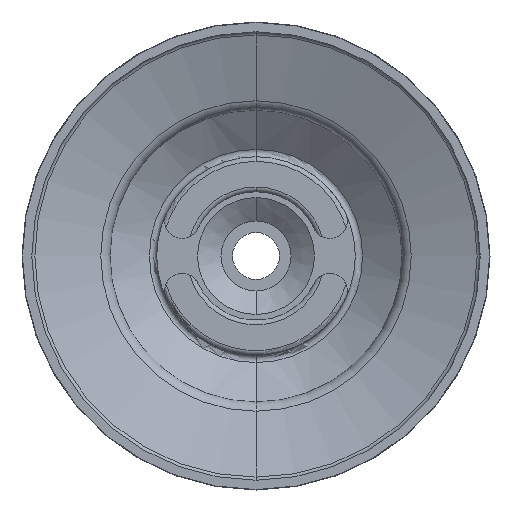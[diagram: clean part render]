
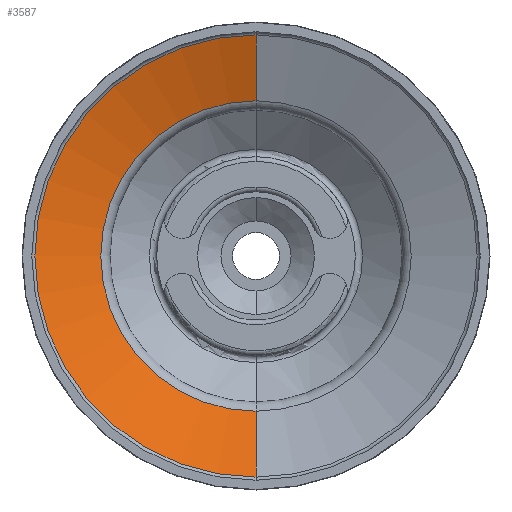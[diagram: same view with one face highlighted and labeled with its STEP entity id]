
A CAD part, front view. The second image highlights one B-rep face of the part: STEP entity #3587.
In plain terms, the highlighted conical face has half-angle 70 degrees and reference radius 13.29 mm.
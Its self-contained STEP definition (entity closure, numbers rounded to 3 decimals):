
#22 = CARTESIAN_POINT ( 'NONE',  ( 0., 2.572, -13.29 ) ) ;
#34 = EDGE_CURVE ( 'NONE', #1404, #2792, #167, .T. ) ;
#167 = LINE ( 'NONE', #1528, #896 ) ;
#273 = ORIENTED_EDGE ( 'NONE', *, *, #34, .T. ) ;
#314 = VERTEX_POINT ( 'NONE', #22 ) ;
#367 = CONICAL_SURFACE ( 'NONE', #3163, 13.29, 1.222 ) ;
#475 = VERTEX_POINT ( 'NONE', #2509 ) ;
#548 = EDGE_CURVE ( 'NONE', #314, #1404, #2271, .T. ) ;
#752 = DIRECTION ( 'NONE',  ( 0., -0.342, 0.94 ) ) ;
#852 = CARTESIAN_POINT ( 'NONE',  ( 0., 2.572, -13.29 ) ) ;
#896 = VECTOR ( 'NONE', #752, 1000. ) ;
#1404 = VERTEX_POINT ( 'NONE', #1500 ) ;
#1407 = LINE ( 'NONE', #852, #2601 ) ;
#1500 = CARTESIAN_POINT ( 'NONE',  ( 0., 2.572, 13.29 ) ) ;
#1528 = CARTESIAN_POINT ( 'NONE',  ( 0., 2.572, 13.29 ) ) ;
#1632 = DIRECTION ( 'NONE',  ( 0., 0., 1. ) ) ;
#1681 = CARTESIAN_POINT ( 'NONE',  ( 0., 0.517, 18.937 ) ) ;
#1706 = CARTESIAN_POINT ( 'NONE',  ( 0., 0.517, 0. ) ) ;
#1725 = DIRECTION ( 'NONE',  ( 0., 1., 0. ) ) ;
#1936 = AXIS2_PLACEMENT_3D ( 'NONE', #1706, #1725, #2336 ) ;
#2271 = CIRCLE ( 'NONE', #3670, 13.29 ) ;
#2336 = DIRECTION ( 'NONE',  ( 0., 0., 1. ) ) ;
#2509 = CARTESIAN_POINT ( 'NONE',  ( 0., 0.517, -18.937 ) ) ;
#2529 = CARTESIAN_POINT ( 'NONE',  ( 0., 2.572, 0. ) ) ;
#2553 = ORIENTED_EDGE ( 'NONE', *, *, #2814, .F. ) ;
#2601 = VECTOR ( 'NONE', #2850, 1000. ) ;
#2628 = ORIENTED_EDGE ( 'NONE', *, *, #548, .T. ) ;
#2787 = ORIENTED_EDGE ( 'NONE', *, *, #3185, .F. ) ;
#2792 = VERTEX_POINT ( 'NONE', #1681 ) ;
#2814 = EDGE_CURVE ( 'NONE', #314, #475, #1407, .T. ) ;
#2850 = DIRECTION ( 'NONE',  ( 0., -0.342, -0.94 ) ) ;
#2887 = EDGE_LOOP ( 'NONE', ( #2628, #273, #2787, #2553 ) ) ;
#2891 = DIRECTION ( 'NONE',  ( 0., 0., -1. ) ) ;
#3033 = CIRCLE ( 'NONE', #1936, 18.937 ) ;
#3145 = FACE_OUTER_BOUND ( 'NONE', #2887, .T. ) ;
#3162 = CARTESIAN_POINT ( 'NONE',  ( 0., 2.572, 0. ) ) ;
#3163 = AXIS2_PLACEMENT_3D ( 'NONE', #3162, #3697, #2891 ) ;
#3185 = EDGE_CURVE ( 'NONE', #475, #2792, #3033, .T. ) ;
#3587 = ADVANCED_FACE ( 'NONE', ( #3145 ), #367, .F. ) ;
#3670 = AXIS2_PLACEMENT_3D ( 'NONE', #2529, #3682, #1632 ) ;
#3682 = DIRECTION ( 'NONE',  ( 0., 1., 0. ) ) ;
#3697 = DIRECTION ( 'NONE',  ( 0., -1., 0. ) ) ;
